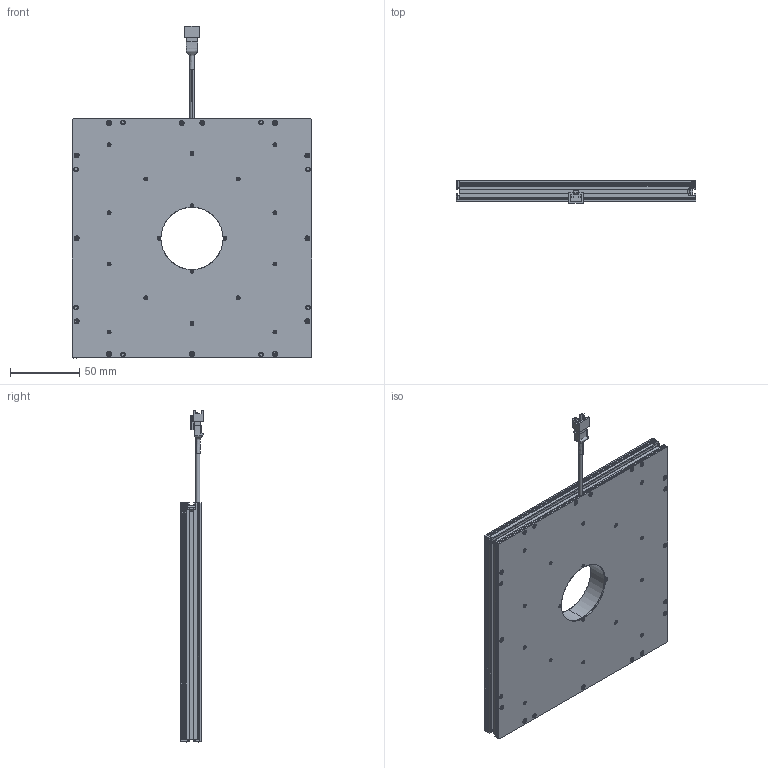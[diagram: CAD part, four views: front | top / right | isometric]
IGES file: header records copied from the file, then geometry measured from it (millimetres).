
Start section: SolidWorks IGES file using analytic representation for surfaces
Global section: file name: C:\Users\user\Downloads\TEMP_STEP\VDFHP-160160_Drawing_L1199A-A00100.IGS; native system: SolidWorks 2018; preprocessor: SolidWorks 2018; author: user; date: 231221.091005; units: millimetre
Bounding box: 173 x 16.55 x 240.19 mm (x, y, z)
Surface area: 121661.3 mm2 (no closed solid volume)
Topology: 0 solids, 0 shells, 770 faces, 9257 edges, 9257 vertices
Faces by surface type: bspline 488, revolution 282
